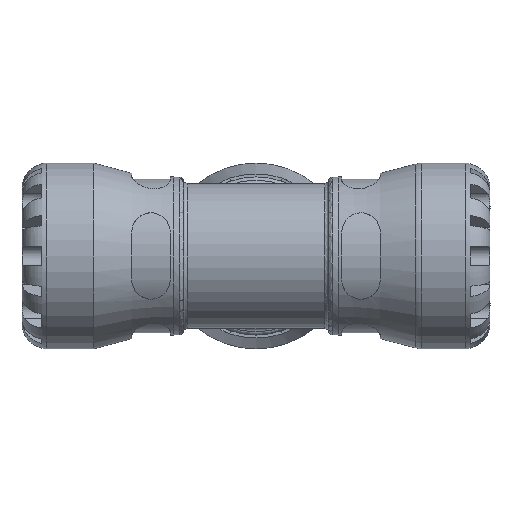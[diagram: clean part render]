
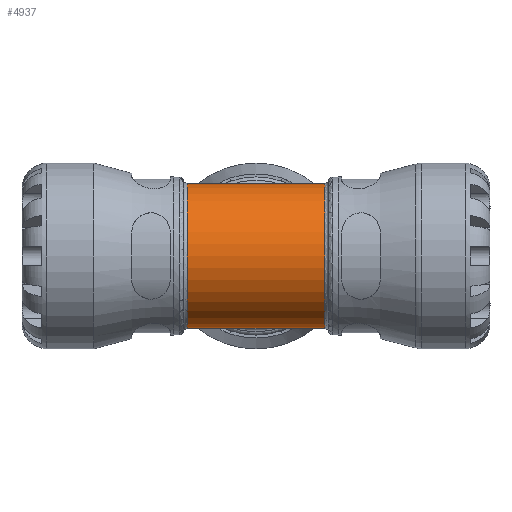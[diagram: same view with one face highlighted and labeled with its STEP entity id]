
A CAD part, front view. The second image highlights one B-rep face of the part: STEP entity #4937.
In plain terms, the highlighted cylindrical face has radius 33.15 mm (diameter 66.3 mm), a partial arc.
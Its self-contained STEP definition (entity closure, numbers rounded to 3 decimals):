
#932=CYLINDRICAL_SURFACE('',#5393,33.15);
#1419=FACE_OUTER_BOUND('',#1738,.T.);
#1738=EDGE_LOOP('',(#4159,#4160,#4161,#4162,#4163,#4164));
#1879=ELLIPSE('',#5060,47.486,33.15);
#1882=ELLIPSE('',#5065,47.486,33.15);
#1884=ELLIPSE('',#5069,47.486,33.15);
#1885=ELLIPSE('',#5071,47.486,33.15);
#1901=CIRCLE('',#5082,33.15);
#1983=CIRCLE('',#5264,33.15);
#2144=VERTEX_POINT('',#6993);
#2145=VERTEX_POINT('',#6995);
#2148=VERTEX_POINT('',#7121);
#2152=VERTEX_POINT('',#7303);
#2154=VERTEX_POINT('',#7306);
#2156=VERTEX_POINT('',#7340);
#2602=EDGE_CURVE('',#2144,#2145,#1879,.T.);
#2609=EDGE_CURVE('',#2145,#2148,#1882,.T.);
#2615=EDGE_CURVE('',#2154,#2152,#1884,.T.);
#2617=EDGE_CURVE('',#2156,#2154,#1885,.T.);
#2633=EDGE_CURVE('',#2152,#2144,#1901,.T.);
#2869=EDGE_CURVE('',#2148,#2156,#1983,.T.);
#4159=ORIENTED_EDGE('',*,*,#2602,.F.);
#4160=ORIENTED_EDGE('',*,*,#2633,.F.);
#4161=ORIENTED_EDGE('',*,*,#2615,.F.);
#4162=ORIENTED_EDGE('',*,*,#2617,.F.);
#4163=ORIENTED_EDGE('',*,*,#2869,.F.);
#4164=ORIENTED_EDGE('',*,*,#2609,.F.);
#4937=ADVANCED_FACE('',(#1419),#932,.T.);
#5060=AXIS2_PLACEMENT_3D('',#6996,#5615,#5616);
#5065=AXIS2_PLACEMENT_3D('',#7125,#5625,#5626);
#5069=AXIS2_PLACEMENT_3D('',#7308,#5633,#5634);
#5071=AXIS2_PLACEMENT_3D('',#7342,#5637,#5638);
#5082=AXIS2_PLACEMENT_3D('',#7737,#5659,#5660);
#5264=AXIS2_PLACEMENT_3D('',#9246,#6107,#6108);
#5393=AXIS2_PLACEMENT_3D('',#10233,#6429,#6430);
#5615=DIRECTION('center_axis',(-0.698,0.716,0.));
#5616=DIRECTION('ref_axis',(0.716,0.698,0.));
#5625=DIRECTION('center_axis',(0.698,0.716,0.));
#5626=DIRECTION('ref_axis',(-0.716,0.698,0.));
#5633=DIRECTION('center_axis',(-0.698,0.716,0.));
#5634=DIRECTION('ref_axis',(0.716,0.698,0.));
#5637=DIRECTION('center_axis',(0.698,0.716,0.));
#5638=DIRECTION('ref_axis',(-0.716,0.698,0.));
#5659=DIRECTION('center_axis',(1.,0.,0.));
#5660=DIRECTION('ref_axis',(0.,1.,0.));
#6107=DIRECTION('center_axis',(-1.,0.,0.));
#6108=DIRECTION('ref_axis',(0.,1.,0.));
#6429=DIRECTION('center_axis',(1.,0.,0.));
#6430=DIRECTION('ref_axis',(0.,1.,0.));
#6993=CARTESIAN_POINT('',(31.477,30.69,-12.532));
#6995=CARTESIAN_POINT('',(0.,0.,-33.15));
#6996=CARTESIAN_POINT('Origin',(0.,0.,0.));
#7121=CARTESIAN_POINT('',(-31.477,30.69,-12.532));
#7125=CARTESIAN_POINT('Origin',(0.,0.,0.));
#7303=CARTESIAN_POINT('',(31.477,30.69,12.532));
#7306=CARTESIAN_POINT('',(0.,0.,33.15));
#7308=CARTESIAN_POINT('Origin',(0.,0.,0.));
#7340=CARTESIAN_POINT('',(-31.477,30.69,12.532));
#7342=CARTESIAN_POINT('Origin',(0.,0.,0.));
#7737=CARTESIAN_POINT('Origin',(31.477,0.,0.));
#9246=CARTESIAN_POINT('Origin',(-31.477,0.,0.));
#10233=CARTESIAN_POINT('Origin',(16.575,0.,0.));
